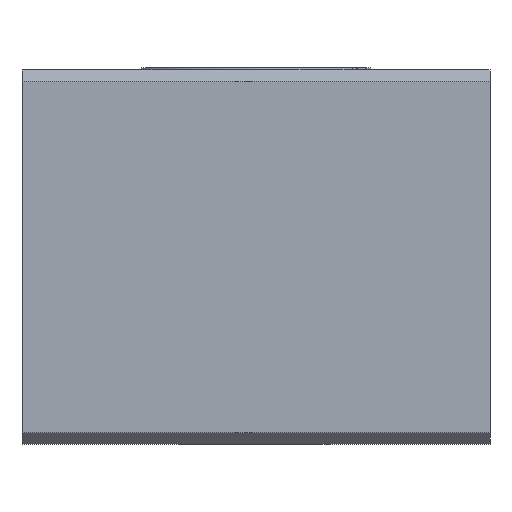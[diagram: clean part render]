
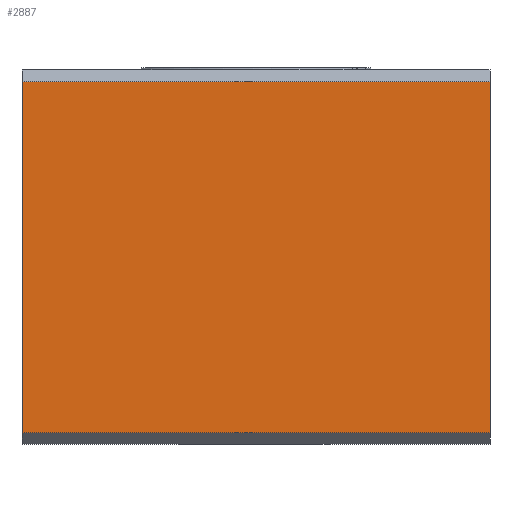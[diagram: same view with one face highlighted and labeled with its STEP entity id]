
A CAD part, front view. The second image highlights one B-rep face of the part: STEP entity #2887.
In plain terms, the highlighted planar face has unit normal (0, -1, 0).
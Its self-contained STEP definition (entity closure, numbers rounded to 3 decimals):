
#328 = EDGE_CURVE ( 'NONE', #17014, #8180, #19155, .T. ) ;
#2259 = PLANE ( 'NONE',  #5463 ) ;
#2678 = ORIENTED_EDGE ( 'NONE', *, *, #14948, .T. ) ;
#2887 = ADVANCED_FACE ( 'NONE', ( #9771 ), #2259, .F. ) ;
#3810 = LINE ( 'NONE', #12079, #11534 ) ;
#3888 = DIRECTION ( 'NONE',  ( 0., 1., 0. ) ) ;
#4684 = CARTESIAN_POINT ( 'NONE',  ( -31.876, 9.462, -7.5 ) ) ;
#4749 = VERTEX_POINT ( 'NONE', #4684 ) ;
#5463 = AXIS2_PLACEMENT_3D ( 'NONE', #13115, #3888, #14676 ) ;
#5559 = DIRECTION ( 'NONE',  ( 1., 0., 0. ) ) ;
#5751 = CARTESIAN_POINT ( 'NONE',  ( -51.876, 9.462, -7.5 ) ) ;
#6293 = ORIENTED_EDGE ( 'NONE', *, *, #18814, .F. ) ;
#6718 = VERTEX_POINT ( 'NONE', #5751 ) ;
#6728 = DIRECTION ( 'NONE',  ( 0., 0., 1. ) ) ;
#7280 = VECTOR ( 'NONE', #5559, 1000. ) ;
#7496 = DIRECTION ( 'NONE',  ( -1., 0., 0. ) ) ;
#8180 = VERTEX_POINT ( 'NONE', #15740 ) ;
#9771 = FACE_OUTER_BOUND ( 'NONE', #15153, .T. ) ;
#10063 = LINE ( 'NONE', #15971, #13684 ) ;
#11534 = VECTOR ( 'NONE', #13618, 1000. ) ;
#12079 = CARTESIAN_POINT ( 'NONE',  ( -51.876, 9.462, 0. ) ) ;
#12342 = ORIENTED_EDGE ( 'NONE', *, *, #16218, .T. ) ;
#12901 = CARTESIAN_POINT ( 'NONE',  ( -51.876, 9.462, 7.5 ) ) ;
#13115 = CARTESIAN_POINT ( 'NONE',  ( -51.876, 9.462, -7.5 ) ) ;
#13618 = DIRECTION ( 'NONE',  ( 0., 0., -1. ) ) ;
#13652 = CARTESIAN_POINT ( 'NONE',  ( -41.876, 9.462, -7.5 ) ) ;
#13684 = VECTOR ( 'NONE', #6728, 1000. ) ;
#14676 = DIRECTION ( 'NONE',  ( 0., 0., 1. ) ) ;
#14948 = EDGE_CURVE ( 'NONE', #4749, #8180, #10063, .T. ) ;
#15153 = EDGE_LOOP ( 'NONE', ( #6293, #2678, #15931, #12342 ) ) ;
#15225 = VECTOR ( 'NONE', #7496, 1000. ) ;
#15740 = CARTESIAN_POINT ( 'NONE',  ( -31.876, 9.462, 7.5 ) ) ;
#15931 = ORIENTED_EDGE ( 'NONE', *, *, #328, .F. ) ;
#15971 = CARTESIAN_POINT ( 'NONE',  ( -31.876, 9.462, 0. ) ) ;
#16218 = EDGE_CURVE ( 'NONE', #17014, #6718, #3810, .T. ) ;
#17014 = VERTEX_POINT ( 'NONE', #12901 ) ;
#17446 = CARTESIAN_POINT ( 'NONE',  ( -41.876, 9.462, 7.5 ) ) ;
#18814 = EDGE_CURVE ( 'NONE', #4749, #6718, #19349, .T. ) ;
#19155 = LINE ( 'NONE', #17446, #7280 ) ;
#19349 = LINE ( 'NONE', #13652, #15225 ) ;
